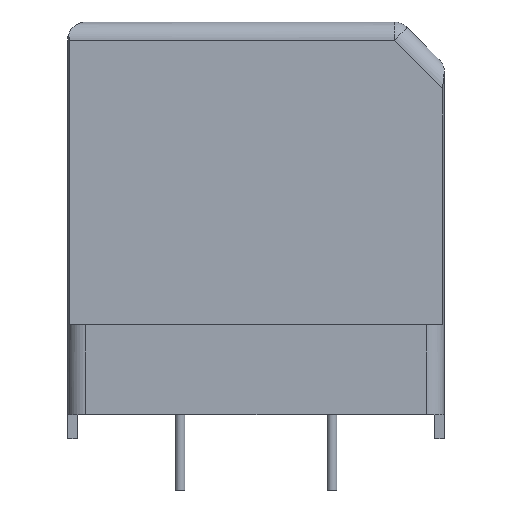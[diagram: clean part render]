
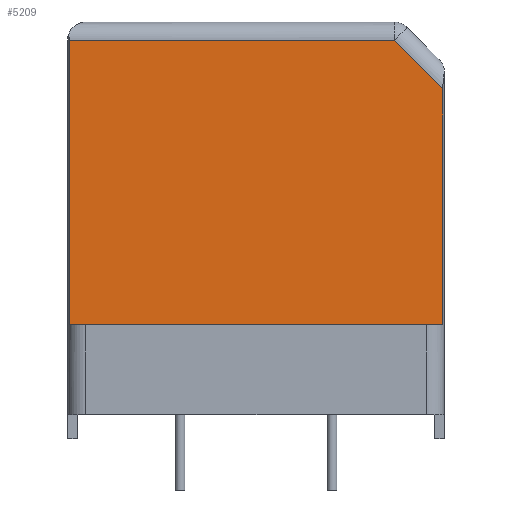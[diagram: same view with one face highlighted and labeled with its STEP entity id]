
A CAD part, left-side view. The second image highlights one B-rep face of the part: STEP entity #5209.
In plain terms, the highlighted planar face has unit normal (-1, 0, 0).
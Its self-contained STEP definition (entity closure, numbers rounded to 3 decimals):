
#4981=CARTESIAN_POINT('',(-8.1,-11.379,15.65));
#4982=VERTEX_POINT('',#4981);
#4990=CARTESIAN_POINT('',(-8.1,-15.375,11.654));
#4991=VERTEX_POINT('',#4990);
#4992=CARTESIAN_POINT('',(-8.1,-11.379,15.65));
#4993=DIRECTION('',(0.0,-0.707,-0.707));
#4994=VECTOR('',#4993,5.651);
#4995=LINE('',#4992,#4994);
#4996=EDGE_CURVE('',#4982,#4991,#4995,.T.);
#5135=CARTESIAN_POINT('',(-8.1,-15.375,-7.75));
#5136=VERTEX_POINT('',#5135);
#5137=CARTESIAN_POINT('',(-8.1,-15.375,11.654));
#5138=DIRECTION('',(0.0,0.0,-1.0));
#5139=VECTOR('',#5138,19.404);
#5140=LINE('',#5137,#5139);
#5141=EDGE_CURVE('',#4991,#5136,#5140,.T.);
#5178=CARTESIAN_POINT('',(-8.1,15.5,17.15));
#5179=DIRECTION('',(1.0,0.0,0.0));
#5180=DIRECTION('',(0.0,-1.0,0.0));
#5181=AXIS2_PLACEMENT_3D('',#5178,#5179,#5180);
#5182=PLANE('',#5181);
#5183=ORIENTED_EDGE('',*,*,#4996,.F.);
#5184=CARTESIAN_POINT('',(-8.1,15.375,15.65));
#5185=VERTEX_POINT('',#5184);
#5186=CARTESIAN_POINT('',(-8.1,15.375,15.65));
#5187=DIRECTION('',(0.0,-1.0,0.0));
#5188=VECTOR('',#5187,26.753);
#5189=LINE('',#5186,#5188);
#5190=EDGE_CURVE('',#5185,#4982,#5189,.T.);
#5191=ORIENTED_EDGE('',*,*,#5190,.F.);
#5192=CARTESIAN_POINT('',(-8.1,15.375,-7.75));
#5193=VERTEX_POINT('',#5192);
#5194=CARTESIAN_POINT('',(-8.1,15.375,-7.75));
#5195=DIRECTION('',(0.0,0.0,1.0));
#5196=VECTOR('',#5195,23.4);
#5197=LINE('',#5194,#5196);
#5198=EDGE_CURVE('',#5193,#5185,#5197,.T.);
#5199=ORIENTED_EDGE('',*,*,#5198,.F.);
#5200=CARTESIAN_POINT('',(-8.1,15.375,-7.75));
#5201=DIRECTION('',(0.0,-1.0,0.0));
#5202=VECTOR('',#5201,30.75);
#5203=LINE('',#5200,#5202);
#5204=EDGE_CURVE('',#5193,#5136,#5203,.T.);
#5205=ORIENTED_EDGE('',*,*,#5204,.T.);
#5206=ORIENTED_EDGE('',*,*,#5141,.F.);
#5207=EDGE_LOOP('',(#5183,#5191,#5199,#5205,#5206));
#5208=FACE_OUTER_BOUND('',#5207,.T.);
#5209=ADVANCED_FACE('',(#5208),#5182,.F.);
